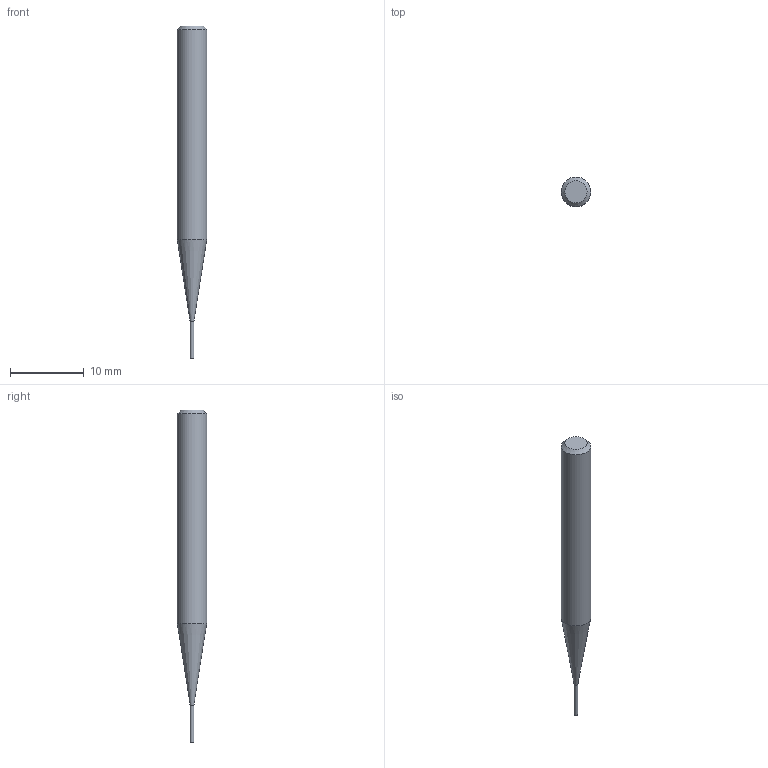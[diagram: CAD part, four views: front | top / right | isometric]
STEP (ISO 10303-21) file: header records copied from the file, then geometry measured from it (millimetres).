
FILE_DESCRIPTION((''),'2;1');
FILE_NAME('C:\Users\nsx150\Desktop\RSE230_20210427\01-00644-00502 RSE230 D0_5X5.step','2021-05-07T14:52:44',(''),(''),'STEP Write','Mastercam 2021 ... CNC Software, Inc.','');
FILE_SCHEMA(('AUTOMOTIVE_DESIGN'));
Length unit declared in the file: millimetre
Products named in the file (1): None
Bounding box: 4 x 4 x 45 mm (x, y, z)
Volume: 416.1 mm3; surface area: 459.9 mm2
Topology: 2 solids, 2 shells, 8 faces, 10 edges, 6 vertices
Faces by surface type: plane 4, cylinder 2, cone 2
Full cylindrical faces by diameter (mm): 0.5 x1, 4 x1
Entity records: 190 total; most frequent: DIRECTION 32, CARTESIAN_POINT 22, AXIS2_PLACEMENT_3D 16, ORIENTED_EDGE 12, EDGE_LOOP 12, STYLED_ITEM 11, ADVANCED_FACE 8, VERTEX_POINT 6
